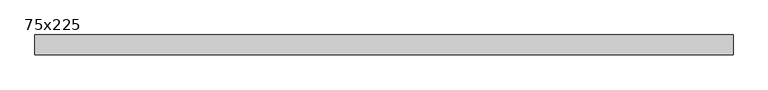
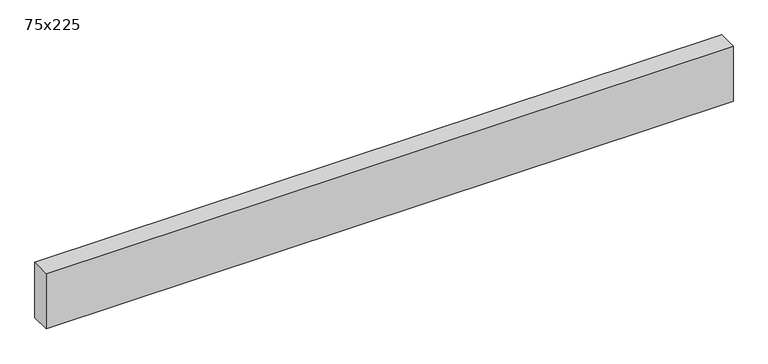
"""IFC4 building model written with IfcOpenShell, lengths in millimetres: beam geometry, Madrier : 75x225."""

import ifcopenshell
import ifcopenshell.guid

model = None  # the IFC model being written
_history = None  # IfcOwnerHistory: only IFC2X3 demands one
_inside = {}  # id of a spatial element -> (the spatial element, [elements in it])
_under = {}  # id of a project, library or spatial element -> (it, [spatial elements below it])
_declared = {}  # id of a project -> (the project, [libraries it declares])
_typed = {}  # id of a type object -> (the type object, [elements of that type])
_made_of = {}  # id of a material, layer set ... -> (it, [elements and type objects made of it])


def new_model(schema):
    """Start an empty IFC model of exactly this schema.

    Asked for "IFC4X3", IfcOpenShell would pick the latest addendum, in which some entities
    have other attributes; the version numbers below select the first issue.
    IFC2X3 requires an IfcOwnerHistory on every rooted entity: one is made here for all.
    """
    global model, _history
    if schema == "IFC4X3":
        model = ifcopenshell.file(schema_version=(4, 3, 0, 0))
    else:
        model = ifcopenshell.file(schema=schema)
    _inside.clear()
    _under.clear()
    _declared.clear()
    _typed.clear()
    _made_of.clear()
    _history = None
    if model.schema == "IFC2X3":
        org = make("IfcOrganization", Name="unknown")
        user = make(
            "IfcPersonAndOrganization",
            ThePerson=make("IfcPerson", FamilyName="unknown"),
            TheOrganization=org,
        )
        app = make(
            "IfcApplication",
            ApplicationDeveloper=org,
            Version="unknown",
            ApplicationFullName="unknown",
            ApplicationIdentifier="unknown",
        )
        _history = make(
            "IfcOwnerHistory",
            OwningUser=user,
            OwningApplication=app,
            ChangeAction="ADDED",
            CreationDate=0,
        )
    return model


def make(cls, **values):
    """One entity of the class cls with the attributes given. An attribute that is None is left unset."""
    return model.create_entity(
        cls, **{name: value for name, value in values.items() if value is not None}
    )


def rooted(cls, **values):
    """An entity with a GlobalId (a new one), such as an element, a storey or a relation."""
    return make(cls, GlobalId=ifcopenshell.guid.new(), OwnerHistory=_history, **values)


def si_unit(unit_type, name, prefix=None):
    """IfcSIUnit, for example si_unit("LENGTHUNIT", "METRE", prefix="MILLI")."""
    return make("IfcSIUnit", UnitType=unit_type, Prefix=prefix, Name=name)


def assignment(units):
    """IfcUnitAssignment: the units of a project."""
    return None if units is None else make("IfcUnitAssignment", Units=units)


def point(xyz):
    """IfcCartesianPoint."""
    return None if xyz is None else make("IfcCartesianPoint", Coordinates=xyz)


def direction(xyz):
    """IfcDirection."""
    return None if xyz is None else make("IfcDirection", DirectionRatios=xyz)


def frame(location, z_axis=None, x_axis=None):
    """IfcAxis2Placement3D, a coordinate frame: its origin and axes. An axis left out is left unset."""
    return make(
        "IfcAxis2Placement3D",
        Location=point(location),
        Axis=direction(z_axis),
        RefDirection=direction(x_axis),
    )


def origin():
    """The frame at (0, 0, 0) with its axes left unset."""
    return frame((0.0, 0.0, 0.0))


def place(relative_to, where):
    """IfcLocalPlacement: puts the frame where relative to a parent placement (None: the world)."""
    return make(
        "IfcLocalPlacement", PlacementRelTo=relative_to, RelativePlacement=where
    )


def context(
    kind, dimensions, precision=None, world=None, true_north=None, identifier=None
):
    """IfcGeometricRepresentationContext, for example the 3D "Model" context."""
    return make(
        "IfcGeometricRepresentationContext",
        ContextIdentifier=identifier,
        ContextType=kind,
        CoordinateSpaceDimension=dimensions,
        Precision=precision,
        WorldCoordinateSystem=world,
        TrueNorth=true_north,
    )


def project(units=None, contexts=None):
    """IfcProject with its units and contexts."""
    return rooted(
        "IfcProject",
        Name="project",
        RepresentationContexts=contexts,
        UnitsInContext=assignment(units),
    )


def spatial(cls, under=None, at=None, **own):
    """A site, building, storey or space (cls), placed at a placement, below another one or the project."""
    s = rooted(cls, ObjectPlacement=at, **own)
    if under is not None:
        _under.setdefault(under.id(), (under, []))[1].append(s)
    return s


def polyline(points):
    """IfcPolyline through the points."""
    return make("IfcPolyline", Points=[point(p) for p in points])


def outline(outer, holes=None, kind="AREA"):
    """IfcArbitraryClosedProfileDef: a profile drawn as a closed curve; with holes, ...WithVoids."""
    if holes is None:
        return make("IfcArbitraryClosedProfileDef", ProfileType=kind, OuterCurve=outer)
    return make(
        "IfcArbitraryProfileDefWithVoids",
        ProfileType=kind,
        OuterCurve=outer,
        InnerCurves=holes,
    )


def extrude(swept, where, along, depth):
    """IfcExtrudedAreaSolid: the profile swept, set in the frame where, extruded along a direction by depth."""
    return make(
        "IfcExtrudedAreaSolid",
        SweptArea=swept,
        Position=where,
        ExtrudedDirection=direction(along),
        Depth=depth,
    )


def shape(context_of_items, identifier, shape_type, items):
    """IfcShapeRepresentation: the items that make up one representation, for example the "Body"."""
    return make(
        "IfcShapeRepresentation",
        ContextOfItems=context_of_items,
        RepresentationIdentifier=identifier,
        RepresentationType=shape_type,
        Items=items,
    )


def source(mapping_origin, context_of_items, identifier, shape_type, items):
    """IfcRepresentationMap: a shape defined once, which mapped items show again and again."""
    return make(
        "IfcRepresentationMap",
        MappingOrigin=mapping_origin,
        MappedRepresentation=shape(context_of_items, identifier, shape_type, items),
    )


def transform(
    local_origin,
    x_axis=None,
    y_axis=None,
    z_axis=None,
    scale=None,
    scale2=None,
    scale3=None,
    uniform=True,
):
    """IfcCartesianTransformationOperator3D, or its non-uniform kind. x_axis, y_axis, z_axis: its Axis1, 2, 3."""
    if uniform:
        return make(
            "IfcCartesianTransformationOperator3D",
            Axis1=direction(x_axis),
            Axis2=direction(y_axis),
            LocalOrigin=point(local_origin),
            Scale=scale,
            Axis3=direction(z_axis),
        )
    return make(
        "IfcCartesianTransformationOperator3DnonUniform",
        Axis1=direction(x_axis),
        Axis2=direction(y_axis),
        LocalOrigin=point(local_origin),
        Scale=scale,
        Axis3=direction(z_axis),
        Scale2=scale2,
        Scale3=scale3,
    )


def mapped(mapping_source, mapping_target):
    """IfcMappedItem: shows the shape of a source again, moved by a transform."""
    return make(
        "IfcMappedItem", MappingSource=mapping_source, MappingTarget=mapping_target
    )


def made_of(thing, what):
    """Note that an element or type object is made of a material, layer set ...; save() writes the relation."""
    if what is not None:
        _made_of.setdefault(what.id(), (what, []))[1].append(thing)
    return thing


def element(
    cls,
    number,
    at=None,
    inside=None,
    cuts=None,
    type_object=None,
    material=None,
    context=None,
    identifier="Body",
    shape_type=None,
    held_by="IfcProductDefinitionShape",
    body=None,
    shapes=None,
    **own,
):
    """One element of the class cls, such as IfcWall. Its Tag is "e" and its number.

    at: its placement. inside: the storey or other place that contains it. cuts: it is an
    opening in that element (IfcRelVoidsElement). A single representation is given by context,
    identifier, shape_type and body (its items); several are given by shapes. held_by: the class
    of the entity that holds the representations. save() writes the other relations.
    """
    e = rooted(cls, Tag="e%d" % number, ObjectPlacement=at, **own)
    if body is not None:
        shapes = [shape(context, identifier, shape_type, body)]
    if shapes is not None:
        e.Representation = make(held_by, Representations=shapes)
    if inside is not None:
        _inside.setdefault(inside.id(), (inside, []))[1].append(e)
    if cuts is not None:
        rooted(
            "IfcRelVoidsElement", RelatingBuildingElement=cuts, RelatedOpeningElement=e
        )
    if type_object is not None:
        _typed.setdefault(type_object.id(), (type_object, []))[1].append(e)
    return made_of(e, material)


def aggregate(whole, parts):
    """IfcRelAggregates: a whole, such as a stair, and the parts it consists of."""
    return rooted("IfcRelAggregates", RelatingObject=whole, RelatedObjects=parts)


def save(model, path):
    """Write the relations noted so far, then the file.

    IfcRelAggregates (storeys below a building ...), IfcRelContainedInSpatialStructure (elements
    in a storey), IfcRelDefinesByType, IfcRelAssociatesMaterial and IfcRelDeclares: one each for
    every whole, place, type object, material and project.
    """
    for whole, parts in _under.values():
        aggregate(whole, parts)
    for where, things in _inside.values():
        rooted(
            "IfcRelContainedInSpatialStructure",
            RelatedElements=things,
            RelatingStructure=where,
        )
    for kind, things in _typed.values():
        rooted("IfcRelDefinesByType", RelatedObjects=things, RelatingType=kind)
    for what, things in _made_of.values():
        rooted("IfcRelAssociatesMaterial", RelatedObjects=things, RelatingMaterial=what)
    for by, libraries in _declared.values():
        rooted("IfcRelDeclares", RelatingContext=by, RelatedDefinitions=libraries)
    model.write(path)


def beam_75x225_f119eb32(model_context):
    return source(origin(), model_context, "Body", "SweptSolid", [
        extrude(outline(polyline([(1265.0, 37.5), (1265.0, -37.5), (-1374.9999994, -37.5), (-1374.9999994, 37.5), (1265.0, 37.5)])), frame((0.0, 0.0, -112.5), z_axis=(0.0, 0.0, 1.0), x_axis=(1.0, 0.0, 0.0)), (0.0, 0.0, 1.0), 225.0),
    ])


if __name__ == "__main__":
    model = new_model("IFC4")
    model_context = context("Model", 3, world=origin())
    ifc_project = project(units=[si_unit("LENGTHUNIT", "METRE", prefix="MILLI")], contexts=[model_context])
    site = spatial("IfcSite", under=ifc_project)
    building = spatial("IfcBuilding", under=site)
    placement = place(None, origin())
    beam_75x225_shape = beam_75x225_f119eb32(model_context)
    element("IfcBeam", 1, ObjectType="Madrier : 75x225", at=placement, inside=building, context=model_context, shape_type="MappedRepresentation", body=[
        mapped(beam_75x225_shape, transform((0.0, 0.0, 0.0), x_axis=(1.0, 0.0, 0.0), y_axis=(0.0, 1.0, 0.0), z_axis=(0.0, 0.0, 1.0))),
    ])
    save(model, "model.ifc")
